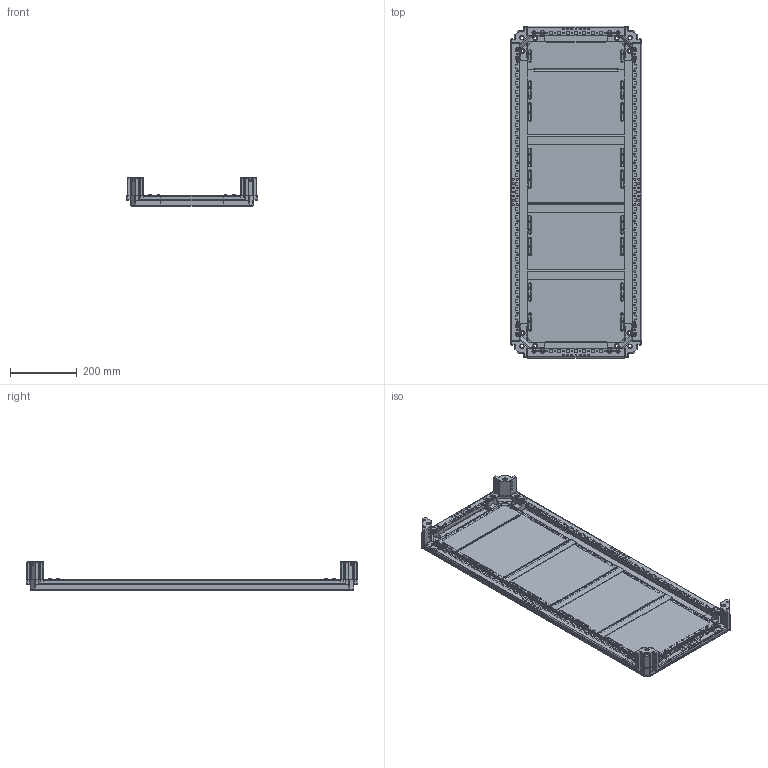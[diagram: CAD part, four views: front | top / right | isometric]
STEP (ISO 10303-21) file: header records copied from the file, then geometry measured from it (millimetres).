
FILE_DESCRIPTION(('STEP AP203'), '1');
FILE_NAME('Êðûøà è îñíîâàíèå Ø400õÃ1000 ìì IP55 OptiBox M 419590 ÊÝÀÇ', '', ('UNSPECIFIED'), ('UNSPECIFIED'), 'C3D Converter', 'C3D Toolkit', '');
FILE_SCHEMA(('CONFIG_CONTROL_DESIGN'));
Length unit declared in the file: millimetre
Bounding box: 392 x 992 x 85 mm (x, y, z)
Volume: 1863390.4 mm3; surface area: 1460589 mm2
Topology: 29 solids, 29 shells, 2462 faces, 6484 edges, 4100 vertices
Faces by surface type: plane 1256, cylinder 958, cone 208, sphere 24, bspline 16
Full cylindrical faces by diameter (mm): 4.6 x176, 5 x60, 5.6 x16, 6 x40, 7 x4, 7.3 x16, 9 x16, 10.2 x4, 13 x20, 14 x8
Entity records: 83108 total; most frequent: CARTESIAN_POINT 21711, DIRECTION 12446, ORIENTED_EDGE 11992, EDGE_CURVE 5996, AXIS2_PLACEMENT_3D 4287, VERTEX_POINT 4100, LINE 3872, VECTOR 3872
